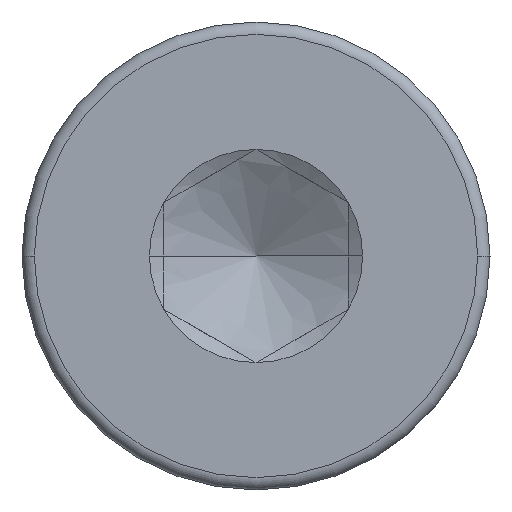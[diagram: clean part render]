
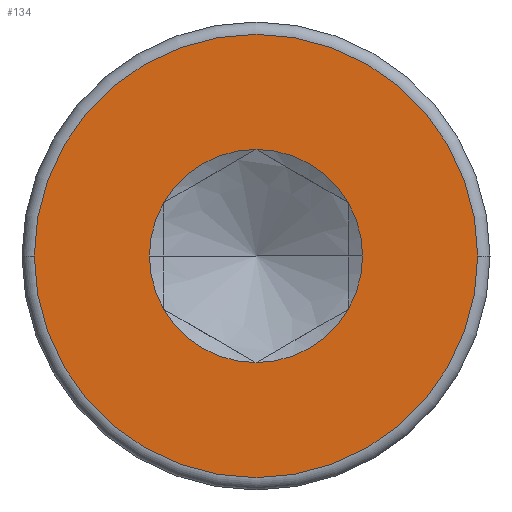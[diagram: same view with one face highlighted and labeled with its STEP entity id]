
A CAD part, left-side view. The second image highlights one B-rep face of the part: STEP entity #134.
In plain terms, the highlighted planar face has unit normal (-1, 0, 0).
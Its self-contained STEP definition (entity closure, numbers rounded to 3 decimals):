
#90=FACE_BOUND('',#206,.F.);
#101=PLANE('',#615);
#134=ADVANCED_FACE('',(#90,#169),#101,.T.);
#169=FACE_OUTER_BOUND('',#207,.F.);
#206=EDGE_LOOP('',(#330,#331,#332,#333,#334,#335,#336,#337));
#207=EDGE_LOOP('',(#338,#339));
#330=ORIENTED_EDGE('',*,*,#460,.T.);
#331=ORIENTED_EDGE('',*,*,#459,.T.);
#332=ORIENTED_EDGE('',*,*,#458,.T.);
#333=ORIENTED_EDGE('',*,*,#465,.T.);
#334=ORIENTED_EDGE('',*,*,#464,.T.);
#335=ORIENTED_EDGE('',*,*,#463,.T.);
#336=ORIENTED_EDGE('',*,*,#462,.T.);
#337=ORIENTED_EDGE('',*,*,#461,.T.);
#338=ORIENTED_EDGE('',*,*,#473,.F.);
#339=ORIENTED_EDGE('',*,*,#466,.F.);
#458=EDGE_CURVE('',#544,#531,#492,.T.);
#459=EDGE_CURVE('',#545,#544,#493,.T.);
#460=EDGE_CURVE('',#546,#545,#494,.T.);
#461=EDGE_CURVE('',#532,#546,#495,.T.);
#462=EDGE_CURVE('',#547,#532,#496,.T.);
#463=EDGE_CURVE('',#541,#547,#497,.T.);
#464=EDGE_CURVE('',#542,#541,#498,.T.);
#465=EDGE_CURVE('',#531,#542,#499,.T.);
#466=EDGE_CURVE('',#521,#520,#500,.T.);
#473=EDGE_CURVE('',#520,#521,#505,.T.);
#492=CIRCLE('',#575,0.866);
#493=CIRCLE('',#576,0.866);
#494=CIRCLE('',#577,0.866);
#495=CIRCLE('',#578,0.866);
#496=CIRCLE('',#579,0.866);
#497=CIRCLE('',#580,0.866);
#498=CIRCLE('',#581,0.866);
#499=CIRCLE('',#582,0.866);
#500=CIRCLE('',#583,1.8);
#505=CIRCLE('',#588,1.8);
#520=VERTEX_POINT('',#817);
#521=VERTEX_POINT('',#818);
#531=VERTEX_POINT('',#828);
#532=VERTEX_POINT('',#829);
#541=VERTEX_POINT('',#838);
#542=VERTEX_POINT('',#839);
#544=VERTEX_POINT('',#841);
#545=VERTEX_POINT('',#842);
#546=VERTEX_POINT('',#843);
#547=VERTEX_POINT('',#844);
#575=AXIS2_PLACEMENT_3D('',#964,#690,#691);
#576=AXIS2_PLACEMENT_3D('',#965,#692,#693);
#577=AXIS2_PLACEMENT_3D('',#966,#694,#695);
#578=AXIS2_PLACEMENT_3D('',#967,#696,#697);
#579=AXIS2_PLACEMENT_3D('',#968,#698,#699);
#580=AXIS2_PLACEMENT_3D('',#969,#700,#701);
#581=AXIS2_PLACEMENT_3D('',#970,#702,#703);
#582=AXIS2_PLACEMENT_3D('',#971,#704,#705);
#583=AXIS2_PLACEMENT_3D('',#972,#706,#707);
#588=AXIS2_PLACEMENT_3D('',#979,#718,#719);
#615=AXIS2_PLACEMENT_3D('',#1006,#772,#773);
#690=DIRECTION('',(-1.,0.,0.));
#691=DIRECTION('',(0.,0.866,0.5));
#692=DIRECTION('',(-1.,0.,0.));
#693=DIRECTION('',(0.,0.,1.));
#694=DIRECTION('',(-1.,0.,0.));
#695=DIRECTION('',(0.,-0.866,0.5));
#696=DIRECTION('',(-1.,0.,0.));
#697=DIRECTION('',(0.,-1.,0.));
#698=DIRECTION('',(-1.,0.,0.));
#699=DIRECTION('',(0.,-0.866,-0.5));
#700=DIRECTION('',(-1.,0.,0.));
#701=DIRECTION('',(0.,0.,-1.));
#702=DIRECTION('',(-1.,0.,0.));
#703=DIRECTION('',(0.,0.867,-0.499));
#704=DIRECTION('',(-1.,0.,0.));
#705=DIRECTION('',(0.,1.,0.));
#706=DIRECTION('',(-1.,0.,0.));
#707=DIRECTION('',(0.,1.,0.));
#718=DIRECTION('',(-1.,0.,0.));
#719=DIRECTION('',(0.,-1.,0.));
#772=DIRECTION('',(-1.,0.,0.));
#773=DIRECTION('',(0.,0.,1.));
#817=CARTESIAN_POINT('',(31.975,2.799,340.443));
#818=CARTESIAN_POINT('',(31.975,6.399,340.443));
#828=CARTESIAN_POINT('',(31.975,5.465,340.443));
#829=CARTESIAN_POINT('',(31.975,3.734,340.443));
#838=CARTESIAN_POINT('',(31.975,4.599,339.578));
#839=CARTESIAN_POINT('',(31.975,5.349,340.011));
#841=CARTESIAN_POINT('',(31.975,5.349,340.876));
#842=CARTESIAN_POINT('',(31.975,4.599,341.309));
#843=CARTESIAN_POINT('',(31.975,3.849,340.876));
#844=CARTESIAN_POINT('',(31.975,3.849,340.01));
#964=CARTESIAN_POINT('',(31.975,4.599,340.443));
#965=CARTESIAN_POINT('',(31.975,4.599,340.443));
#966=CARTESIAN_POINT('',(31.975,4.599,340.443));
#967=CARTESIAN_POINT('',(31.975,4.599,340.443));
#968=CARTESIAN_POINT('',(31.975,4.599,340.443));
#969=CARTESIAN_POINT('',(31.975,4.599,340.443));
#970=CARTESIAN_POINT('',(31.975,4.599,340.443));
#971=CARTESIAN_POINT('',(31.975,4.599,340.443));
#972=CARTESIAN_POINT('',(31.975,4.599,340.443));
#979=CARTESIAN_POINT('',(31.975,4.599,340.443));
#1006=CARTESIAN_POINT('',(31.975,2.763,338.607));
